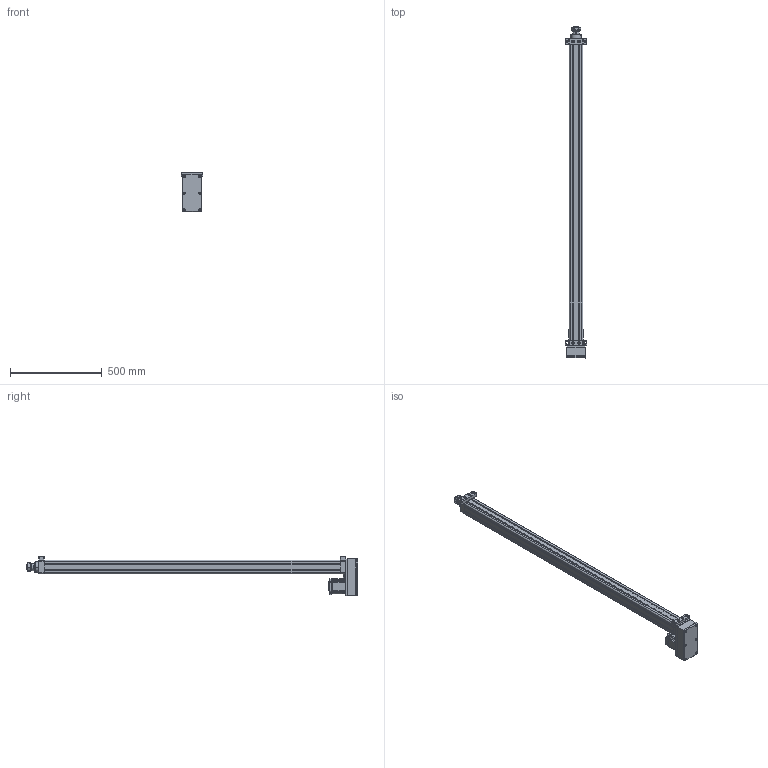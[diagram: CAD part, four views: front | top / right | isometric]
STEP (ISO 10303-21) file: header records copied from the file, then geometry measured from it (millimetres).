
FILE_DESCRIPTION((''),'2;1');
FILE_NAME('HE63-D-100-X1_ASM','2020-05-07T',('ASUS20200'),(''),'CREO PARAMETRIC BY PTC INC, 2014190','CREO PARAMETRIC BY PTC INC, 2014190','');
FILE_SCHEMA(('CONFIG_CONTROL_DESIGN'));
Length unit declared in the file: millimetre
Products named in the file (26): HE63-D-P-001-X1; HE63-D-P-002-X1; HE63-D-P-003-X1; LGLM-M8-22; SLM-01; YZ-M6X1; JDB405030; HE63-P-010-X1-80N; _MHMF082L1A2; MHMF082L1A2M2_1_ASM; JX6X6X25; HE63-P-012-X1; HE63-P-013-X1; M6X60; JM-M8; LM-M8-15; LM-M8X1-25; HE63-D-P-005-X1; HE63-D-P-004-X1; HE63-D-P-008-X1; TD-6; M6X25; HE63-P-015-X1; HE63-P-016-X1; M8X25; HE63-D-100-X1_ASM
Assembly tree (46 placements, depth 3):
  HE63-D-100-X1_ASM
    HE63-D-P-001-X1
    HE63-D-P-002-X1
    HE63-D-P-003-X1
    LGLM-M8-22  x8
    SLM-01
    YZ-M6X1
    JDB405030
    HE63-P-010-X1-80N
    MHMF082L1A2M2_1_ASM
      _MHMF082L1A2
    JX6X6X25
    HE63-P-012-X1
    HE63-P-013-X1
    M6X60  x6
    JM-M8
    LM-M8-15
    LM-M8X1-25
    HE63-D-P-005-X1
    HE63-D-P-004-X1
    HE63-D-P-008-X1
    TD-6  x4
    M6X25  x4
    HE63-P-015-X1
    HE63-P-016-X1
    M8X25  x4
Bounding box: 115 x 1807 x 212.5 mm (x, y, z)
Volume: 5480963.1 mm3; surface area: 1718733.5 mm2
Topology: 45 solids, 79 shells, 2343 faces, 5560 edges, 3420 vertices
Faces by surface type: plane 936, cylinder 661, cone 595, torus 118, sphere 30, bspline 3
Entity records: 54845 total; most frequent: CARTESIAN_POINT 10447, DIRECTION 9830, ORIENTED_EDGE 8588, EDGE_CURVE 4356, AXIS2_PLACEMENT_3D 3739, VERTEX_POINT 2689, VECTOR 2352, LINE 2352
